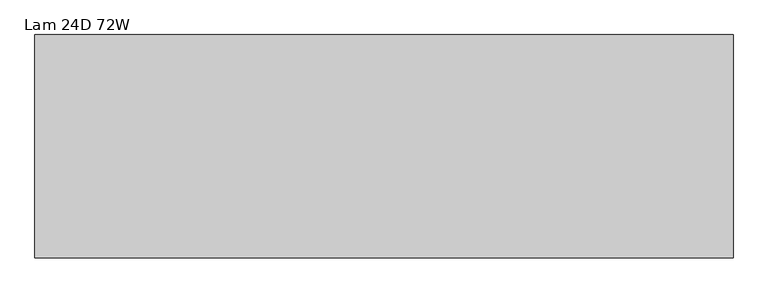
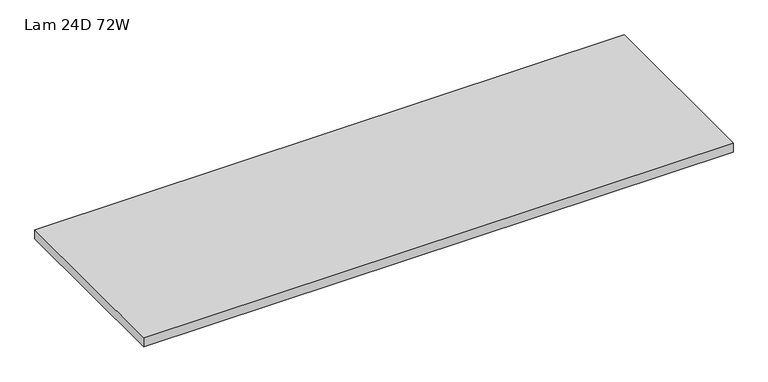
"""IFC4 building model written with IfcOpenShell, lengths in millimetres: furniture geometry, HermanMiller_Ethospace_EWS10_F_Sq-EdgeRectangularSurface_FrameAttached : Lam 24D 72W."""

from ifc_helpers import new_model, si_unit, frame, origin, place, context, project, spatial, polyline, outline, extrude, source, transform, mapped, element, save


def lam_24d_72w_2bc73c4e(model_context):
    return source(origin(), model_context, "Body", "SweptSolid", [
        extrude(outline(polyline([(1363.1275996, 174.6914812), (-462.6244004, 174.6914812), (-462.6244004, 758.8914812), (1363.1275996, 758.8914812), (1363.1275996, 174.6914812)])), frame((0.0, 0.0, 706.7296), z_axis=(0.0, 0.0, 1.0), x_axis=(1.0, 0.0, 0.0)), (0.0, 0.0, 1.0), 29.8704),
    ])


if __name__ == "__main__":
    model = new_model("IFC4")
    model_context = context("Model", 3, world=origin())
    ifc_project = project(units=[si_unit("LENGTHUNIT", "METRE", prefix="MILLI")], contexts=[model_context])
    site = spatial("IfcSite", under=ifc_project)
    building = spatial("IfcBuilding", under=site)
    placement = place(None, origin())
    lam_24d_72w_shape = lam_24d_72w_2bc73c4e(model_context)
    element("IfcFurniture", 1, ObjectType="HermanMiller_Ethospace_EWS10_F_Sq-EdgeRectangularSurface_FrameAttached : Lam 24D 72W", at=placement, inside=building, context=model_context, shape_type="MappedRepresentation", body=[
        mapped(lam_24d_72w_shape, transform((0.0, 0.0, 0.0), x_axis=(1.0, 0.0, 0.0), y_axis=(0.0, 1.0, 0.0), z_axis=(0.0, 0.0, 1.0))),
    ])
    save(model, "model.ifc")
